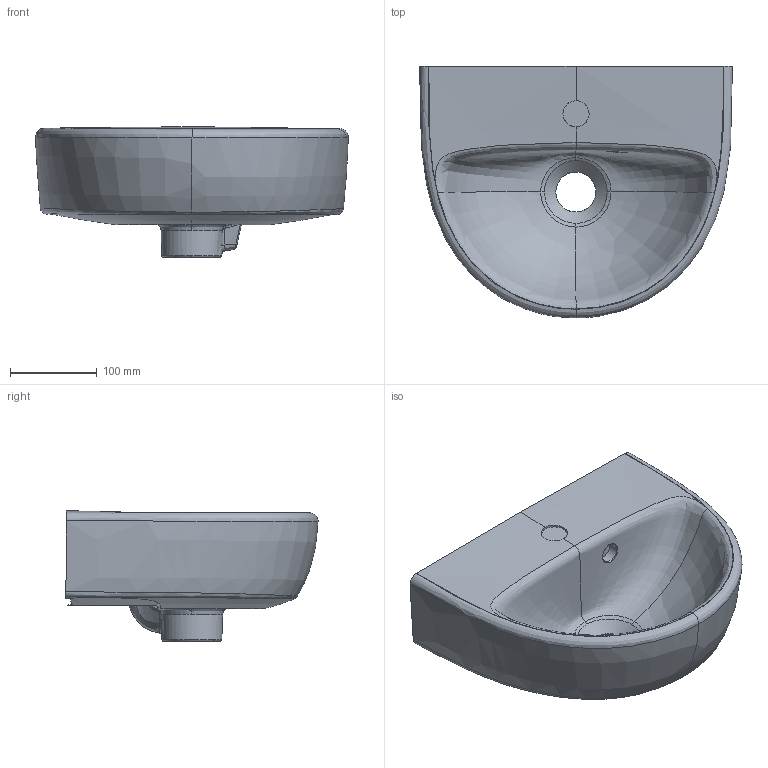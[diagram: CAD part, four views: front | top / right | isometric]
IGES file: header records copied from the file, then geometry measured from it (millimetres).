
Global section: file name: 500320; native system: Autodesk Inventor 2018; preprocessor: unknown; author: seihe2; date: 20200527.084240; units: millimetre
Bounding box: 360 x 290.16 x 150.35 mm (x, y, z)
Volume: 6072887.8 mm3; surface area: 324659.4 mm2
Topology: 1 solids, 1 shells, 111 faces, 284 edges, 177 vertices
Faces by surface type: bspline 111
